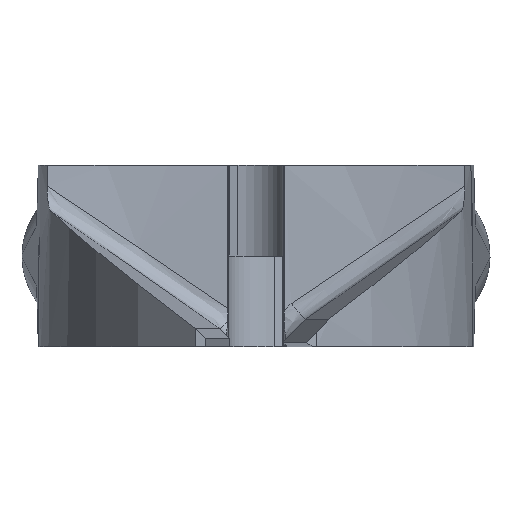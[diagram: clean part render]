
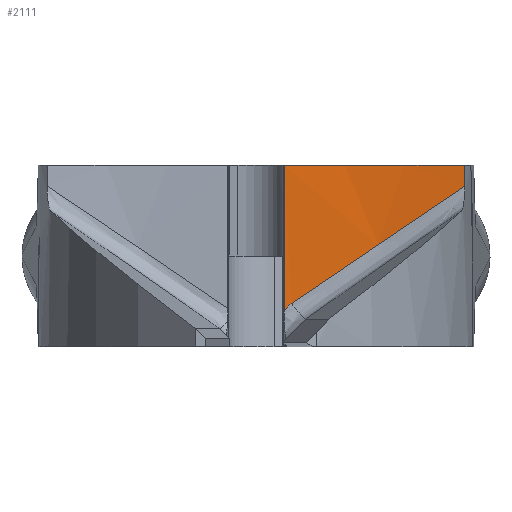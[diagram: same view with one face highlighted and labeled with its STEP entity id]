
A CAD part, left-side view. The second image highlights one B-rep face of the part: STEP entity #2111.
In plain terms, the highlighted cylindrical face has radius 37.5 mm (diameter 75 mm), a partial arc.
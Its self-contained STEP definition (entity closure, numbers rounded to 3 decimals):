
#53 = CARTESIAN_POINT ( 'NONE',  ( -13.31, -4.721, 4.988 ) ) ;
#169 = CARTESIAN_POINT ( 'NONE',  ( -13.013, -0.2, 1.809 ) ) ;
#220 = LINE ( 'NONE', #3454, #1235 ) ;
#394 = EDGE_CURVE ( 'NONE', #570, #2493, #3562, .T. ) ;
#423 = CARTESIAN_POINT ( 'NONE',  ( -13.016, -0.536, 2.136 ) ) ;
#441 = CARTESIAN_POINT ( 'NONE',  ( -13.322, -4.808, 5.048 ) ) ;
#570 = VERTEX_POINT ( 'NONE', #4812 ) ;
#593 = AXIS2_PLACEMENT_3D ( 'NONE', #3024, #4992, #2648 ) ;
#633 = EDGE_CURVE ( 'NONE', #2416, #3872, #1339, .T. ) ;
#659 = ORIENTED_EDGE ( 'NONE', *, *, #633, .F. ) ;
#730 = ORIENTED_EDGE ( 'NONE', *, *, #2897, .T. ) ;
#781 = DIRECTION ( 'NONE',  ( 0., 0., -1. ) ) ;
#816 = CARTESIAN_POINT ( 'NONE',  ( -13.029, -1.446, 2.756 ) ) ;
#835 = CARTESIAN_POINT ( 'NONE',  ( -13.324, -4.829, 5.062 ) ) ;
#959 = VECTOR ( 'NONE', #1987, 1000. ) ;
#1057 = VERTEX_POINT ( 'NONE', #1837 ) ;
#1171 = CYLINDRICAL_SURFACE ( 'NONE', #593, 37.5 ) ;
#1197 = CARTESIAN_POINT ( 'NONE',  ( -13.073, -2.26, 3.31 ) ) ;
#1211 = CARTESIAN_POINT ( 'NONE',  ( -13.325, -4.834, 5.065 ) ) ;
#1226 = CARTESIAN_POINT ( 'NONE',  ( -13.016, -0.536, 2.136 ) ) ;
#1235 = VECTOR ( 'NONE', #781, 1000. ) ;
#1339 = CIRCLE ( 'NONE', #3303, 37.5 ) ;
#1583 = CARTESIAN_POINT ( 'NONE',  ( -13.191, -3.669, 4.271 ) ) ;
#1595 = CARTESIAN_POINT ( 'NONE',  ( -13.814, -7.822, 7.101 ) ) ;
#1735 = LINE ( 'NONE', #3537, #959 ) ;
#1752 = EDGE_CURVE ( 'NONE', #3872, #1057, #220, .T. ) ;
#1837 = CARTESIAN_POINT ( 'NONE',  ( -14.126, -9.074, 7.955 ) ) ;
#1950 = EDGE_LOOP ( 'NONE', ( #2179, #659, #730, #4636, #3362 ) ) ;
#1964 = CARTESIAN_POINT ( 'NONE',  ( -13.257, -4.283, 4.69 ) ) ;
#1987 = DIRECTION ( 'NONE',  ( 0., 0., -1. ) ) ;
#1990 = CARTESIAN_POINT ( 'NONE',  ( -13.014, -0.424, 2.027 ) ) ;
#2111 = ADVANCED_FACE ( 'NONE', ( #4248 ), #1171, .F. ) ;
#2143 = DIRECTION ( 'NONE',  ( 0., 0., -1. ) ) ;
#2179 = ORIENTED_EDGE ( 'NONE', *, *, #1752, .F. ) ;
#2355 = CARTESIAN_POINT ( 'NONE',  ( -13.296, -4.603, 4.907 ) ) ;
#2416 = VERTEX_POINT ( 'NONE', #3826 ) ;
#2493 = VERTEX_POINT ( 'NONE', #3847 ) ;
#2648 = DIRECTION ( 'NONE',  ( -1., 0., 0. ) ) ;
#2731 = CARTESIAN_POINT ( 'NONE',  ( -13.318, -4.779, 5.028 ) ) ;
#2873 = CARTESIAN_POINT ( 'NONE',  ( -14.126, -9.074, 9. ) ) ;
#2894 = B_SPLINE_CURVE_WITH_KNOTS ( 'NONE', 3,
 ( #423, #816, #1197, #3882, #1583, #4282, #1964, #4674, #2355, #53, #2731, #441, #3130, #835, #3510, #1211, #3899, #1595, #4302 ),
 .UNSPECIFIED., .F., .F.,
 ( 4, 2, 2, 2, 1, 1, 1, 1, 1, 2, 2, 4 ),
 ( 0., 0.25, 0.375, 0.438, 0.469, 0.484, 0.492, 0.496, 0.498, 0.499, 0.5, 1. ),
 .UNSPECIFIED. ) ;
#2897 = EDGE_CURVE ( 'NONE', #2416, #2493, #1735, .T. ) ;
#3024 = CARTESIAN_POINT ( 'NONE',  ( -50.512, 0., 9. ) ) ;
#3130 = CARTESIAN_POINT ( 'NONE',  ( -13.324, -4.823, 5.057 ) ) ;
#3303 = AXIS2_PLACEMENT_3D ( 'NONE', #4477, #2143, #4854 ) ;
#3362 = ORIENTED_EDGE ( 'NONE', *, *, #4807, .T. ) ;
#3454 = CARTESIAN_POINT ( 'NONE',  ( -14.126, -9.074, 4.5 ) ) ;
#3510 = CARTESIAN_POINT ( 'NONE',  ( -13.325, -4.833, 5.064 ) ) ;
#3537 = CARTESIAN_POINT ( 'NONE',  ( -13.013, -0.2, 5.383 ) ) ;
#3562 = B_SPLINE_CURVE_WITH_KNOTS ( 'NONE', 3,
 ( #1226, #1990, #4791, #169 ),
 .UNSPECIFIED., .F., .F.,
 ( 4, 4 ),
 ( 0., 1. ),
 .UNSPECIFIED. ) ;
#3826 = CARTESIAN_POINT ( 'NONE',  ( -13.013, -0.2, 9. ) ) ;
#3847 = CARTESIAN_POINT ( 'NONE',  ( -13.013, -0.2, 1.809 ) ) ;
#3872 = VERTEX_POINT ( 'NONE', #2873 ) ;
#3882 = CARTESIAN_POINT ( 'NONE',  ( -13.159, -3.335, 4.043 ) ) ;
#3899 = CARTESIAN_POINT ( 'NONE',  ( -13.53, -6.409, 6.139 ) ) ;
#4248 = FACE_OUTER_BOUND ( 'NONE', #1950, .T. ) ;
#4282 = CARTESIAN_POINT ( 'NONE',  ( -13.24, -4.134, 4.588 ) ) ;
#4302 = CARTESIAN_POINT ( 'NONE',  ( -14.126, -9.074, 7.955 ) ) ;
#4477 = CARTESIAN_POINT ( 'NONE',  ( -50.512, 0., 9. ) ) ;
#4636 = ORIENTED_EDGE ( 'NONE', *, *, #394, .F. ) ;
#4674 = CARTESIAN_POINT ( 'NONE',  ( -13.283, -4.498, 4.836 ) ) ;
#4791 = CARTESIAN_POINT ( 'NONE',  ( -13.013, -0.312, 1.918 ) ) ;
#4807 = EDGE_CURVE ( 'NONE', #570, #1057, #2894, .T. ) ;
#4812 = CARTESIAN_POINT ( 'NONE',  ( -13.016, -0.536, 2.136 ) ) ;
#4854 = DIRECTION ( 'NONE',  ( -1., 0., 0. ) ) ;
#4992 = DIRECTION ( 'NONE',  ( 0., 0., -1. ) ) ;
